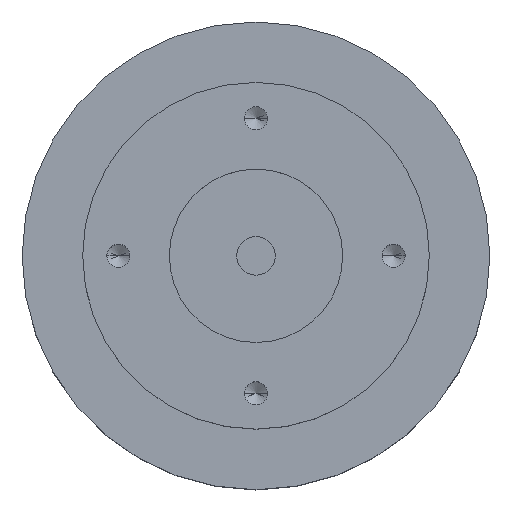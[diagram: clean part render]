
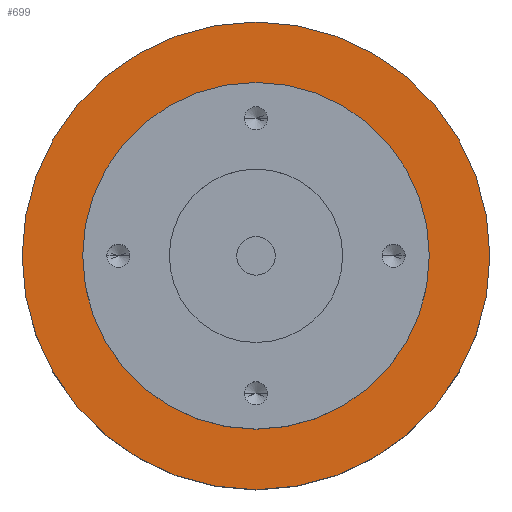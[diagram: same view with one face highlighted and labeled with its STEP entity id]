
A CAD part, top view. The second image highlights one B-rep face of the part: STEP entity #699.
In plain terms, the highlighted planar face has unit normal (0, 0, 1).
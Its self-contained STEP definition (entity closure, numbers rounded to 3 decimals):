
#14 = CARTESIAN_POINT ( 'NONE',  ( 0., 0., 27.5 ) ) ;
#32 = ORIENTED_EDGE ( 'NONE', *, *, #884, .F. ) ;
#37 = VERTEX_POINT ( 'NONE', #492 ) ;
#57 = CIRCLE ( 'NONE', #834, 42.5 ) ;
#105 = VERTEX_POINT ( 'NONE', #208 ) ;
#125 = CARTESIAN_POINT ( 'NONE',  ( 0., 0., 27.5 ) ) ;
#138 = VERTEX_POINT ( 'NONE', #643 ) ;
#165 = CARTESIAN_POINT ( 'NONE',  ( 0., 0., 27.5 ) ) ;
#206 = ORIENTED_EDGE ( 'NONE', *, *, #647, .T. ) ;
#208 = CARTESIAN_POINT ( 'NONE',  ( -31.5, 0., 27.5 ) ) ;
#211 = AXIS2_PLACEMENT_3D ( 'NONE', #14, #890, #317 ) ;
#274 = ORIENTED_EDGE ( 'NONE', *, *, #543, .F. ) ;
#303 = FACE_BOUND ( 'NONE', #331, .T. ) ;
#317 = DIRECTION ( 'NONE',  ( 1., 0., 0. ) ) ;
#331 = EDGE_LOOP ( 'NONE', ( #32, #274 ) ) ;
#379 = DIRECTION ( 'NONE',  ( 1., 0., 0. ) ) ;
#429 = FACE_OUTER_BOUND ( 'NONE', #464, .T. ) ;
#438 = DIRECTION ( 'NONE',  ( 1., 0., 0. ) ) ;
#464 = EDGE_LOOP ( 'NONE', ( #206, #576 ) ) ;
#492 = CARTESIAN_POINT ( 'NONE',  ( 42.5, 0., 27.5 ) ) ;
#504 = AXIS2_PLACEMENT_3D ( 'NONE', #125, #726, #669 ) ;
#519 = AXIS2_PLACEMENT_3D ( 'NONE', #566, #555, #847 ) ;
#543 = EDGE_CURVE ( 'NONE', #717, #105, #625, .T. ) ;
#555 = DIRECTION ( 'NONE',  ( 0., 0., 1. ) ) ;
#566 = CARTESIAN_POINT ( 'NONE',  ( 0., 0., 27.5 ) ) ;
#570 = AXIS2_PLACEMENT_3D ( 'NONE', #871, #798, #438 ) ;
#576 = ORIENTED_EDGE ( 'NONE', *, *, #813, .T. ) ;
#599 = CARTESIAN_POINT ( 'NONE',  ( 31.5, 0., 27.5 ) ) ;
#625 = CIRCLE ( 'NONE', #519, 31.5 ) ;
#643 = CARTESIAN_POINT ( 'NONE',  ( -42.5, 0., 27.5 ) ) ;
#647 = EDGE_CURVE ( 'NONE', #138, #37, #905, .T. ) ;
#664 = PLANE ( 'NONE',  #570 ) ;
#669 = DIRECTION ( 'NONE',  ( 1., 0., 0. ) ) ;
#699 = ADVANCED_FACE ( 'NONE', ( #303, #429 ), #664, .T. ) ;
#717 = VERTEX_POINT ( 'NONE', #599 ) ;
#726 = DIRECTION ( 'NONE',  ( 0., 0., 1. ) ) ;
#756 = CIRCLE ( 'NONE', #211, 31.5 ) ;
#798 = DIRECTION ( 'NONE',  ( 0., 0., 1. ) ) ;
#813 = EDGE_CURVE ( 'NONE', #37, #138, #57, .T. ) ;
#814 = DIRECTION ( 'NONE',  ( 0., 0., 1. ) ) ;
#834 = AXIS2_PLACEMENT_3D ( 'NONE', #165, #814, #379 ) ;
#847 = DIRECTION ( 'NONE',  ( 1., 0., 0. ) ) ;
#871 = CARTESIAN_POINT ( 'NONE',  ( 0., 0., 27.5 ) ) ;
#884 = EDGE_CURVE ( 'NONE', #105, #717, #756, .T. ) ;
#890 = DIRECTION ( 'NONE',  ( 0., 0., 1. ) ) ;
#905 = CIRCLE ( 'NONE', #504, 42.5 ) ;
